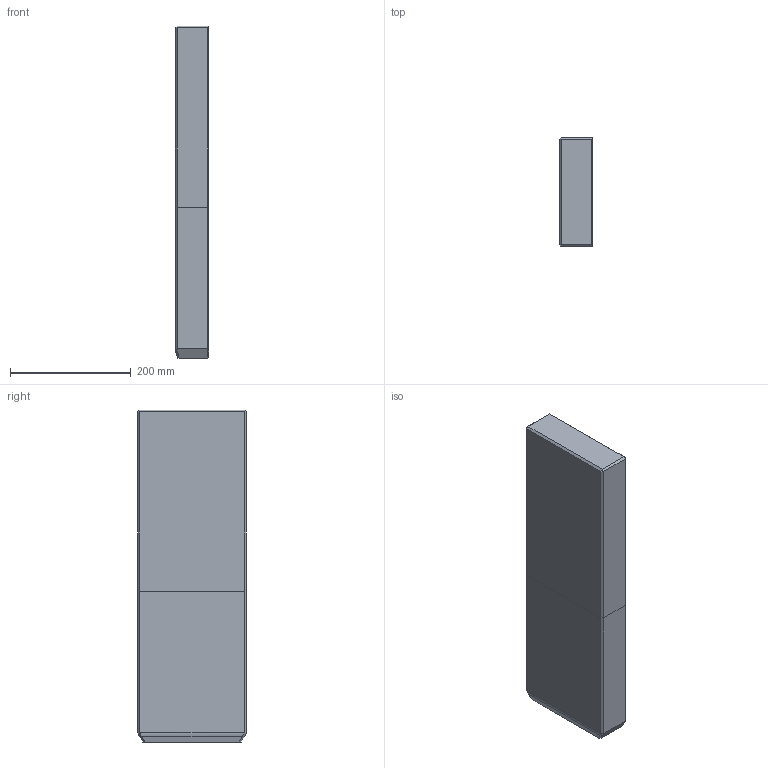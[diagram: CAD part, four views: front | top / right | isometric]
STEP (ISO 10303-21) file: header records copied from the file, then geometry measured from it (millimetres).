
FILE_DESCRIPTION((''),'2;1');
FILE_NAME('','2010-08-30T18:08:03+09:00',('misumi'),(''),'M/STEP i/f 1R2-14','CADmeister v5.1','');
FILE_SCHEMA(('AUTOMOTIVE_DESIGN'));
Length unit declared in the file: millimetre
Products named in the file (1): OGG180-550
Bounding box: 55 x 180 x 550 mm (x, y, z)
Volume: 5423995.8 mm3; surface area: 274640.4 mm2
Topology: 1 solids, 1 shells, 36 faces, 82 edges, 49 vertices
Faces by surface type: plane 28, bspline 5, cylinder 3
Entity records: 1664 total; most frequent: CARTESIAN_POINT 819, ORIENTED_EDGE 164, DIRECTION 134, EDGE_CURVE 82, LINE 62, VECTOR 62, VERTEX_POINT 49, EDGE_LOOP 37
